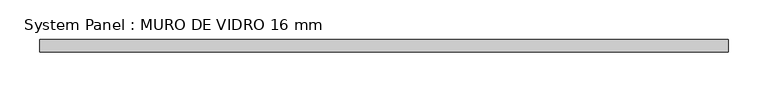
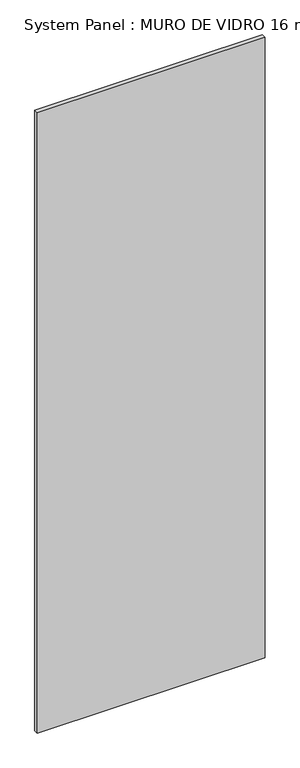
"""IFC4 building model written with IfcOpenShell, lengths in millimetres: plate geometry, System Panel : MURO DE VIDRO 16 mm."""

from ifc_helpers import new_model, si_unit, origin, origin_with_axes, place, context, project, spatial, polyline, outline, extrude, source, transform, mapped, element, save


def system_panel_muro_de_vidro_16_mm_a46e8366(model_context):
    return source(origin(), model_context, "Body", "SweptSolid", [
        extrude(outline(polyline([(434.5273447, -8.0), (-434.5273447, -8.0), (-434.5273447, 8.0), (434.5273447, 8.0), (434.5273447, -8.0)])), origin_with_axes(), (0.0, 0.0, 1.0), 2500.0),
    ])


if __name__ == "__main__":
    model = new_model("IFC4")
    model_context = context("Model", 3, world=origin())
    ifc_project = project(units=[si_unit("LENGTHUNIT", "METRE", prefix="MILLI")], contexts=[model_context])
    site = spatial("IfcSite", under=ifc_project)
    building = spatial("IfcBuilding", under=site)
    placement = place(None, origin())
    system_panel_muro_de_vidro_16_mm_shape = system_panel_muro_de_vidro_16_mm_a46e8366(model_context)
    element("IfcPlate", 1, ObjectType="System Panel : MURO DE VIDRO 16 mm", at=placement, inside=building, context=model_context, shape_type="MappedRepresentation", body=[
        mapped(system_panel_muro_de_vidro_16_mm_shape, transform((0.0, 0.0, 0.0), x_axis=(1.0, 0.0, 0.0), y_axis=(0.0, 1.0, 0.0), z_axis=(0.0, 0.0, 1.0))),
    ])
    save(model, "model.ifc")
